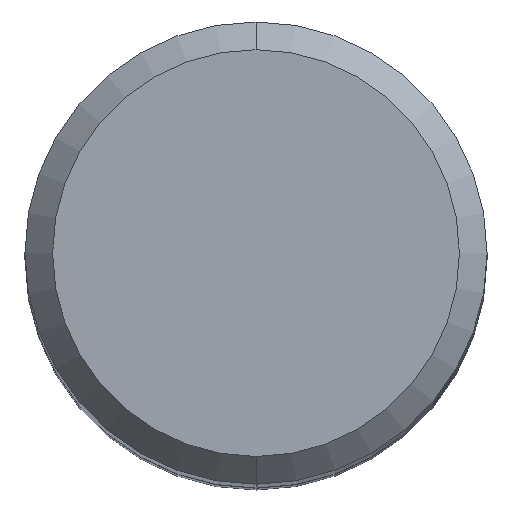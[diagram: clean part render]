
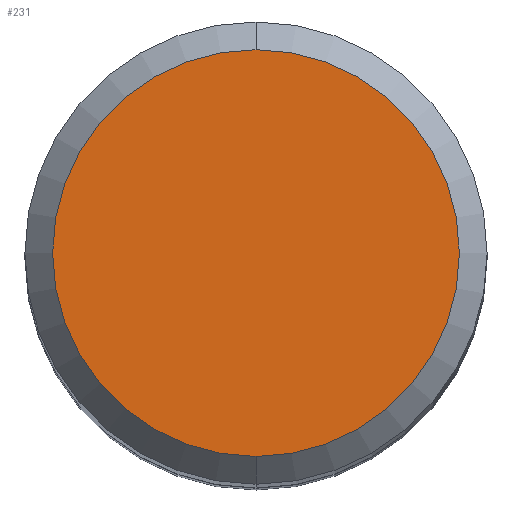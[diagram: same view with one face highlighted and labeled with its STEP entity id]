
A CAD part, top view. The second image highlights one B-rep face of the part: STEP entity #231.
In plain terms, the highlighted free-form (B-spline) face has degree [1, 1] with [2, 2] control points.
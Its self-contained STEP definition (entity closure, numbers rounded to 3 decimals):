
#38=CARTESIAN_POINT('',(0.,0.,0.));
#39=DIRECTION('',(0.,0.,1.));
#40=DIRECTION('',(0.,1.,0.));
#41=AXIS2_PLACEMENT_3D('',#38,#39,#40);
#43=CARTESIAN_POINT('',(0.,0.,0.));
#44=DIRECTION('',(0.,0.,-1.));
#45=DIRECTION('',(0.,1.,0.));
#46=AXIS2_PLACEMENT_3D('',#43,#44,#45);
#138=CARTESIAN_POINT('',(0.,4.4,0.));
#139=VERTEX_POINT('',#138);
#140=CARTESIAN_POINT('',(0.,-4.4,0.));
#141=VERTEX_POINT('',#140);
#222=CARTESIAN_POINT('',(4.576,4.576,0.));
#223=CARTESIAN_POINT('',(-4.576,4.576,0.));
#224=CARTESIAN_POINT('',(4.576,-4.576,0.));
#225=CARTESIAN_POINT('',(-4.576,-4.576,0.));
#226=B_SPLINE_SURFACE_WITH_KNOTS('',1,1,((#222,#223),(#224,#225)),.UNSPECIFIED.,
.F.,.F.,.F.,(2,2),(2,2),(-4.576,4.576),(-4.576,4.576),.UNSPECIFIED.);
#227=ORIENTED_EDGE('',*,*,#207,.F.);
#228=ORIENTED_EDGE('',*,*,#175,.T.);
#229=EDGE_LOOP('',(#227,#228));
#230=FACE_OUTER_BOUND('',#229,.F.);
#42=CIRCLE('',#41,4.4);
#47=CIRCLE('',#46,4.4);
#175=EDGE_CURVE('',#139,#141,#47,.T.);
#207=EDGE_CURVE('',#139,#141,#42,.T.);
#231=ADVANCED_FACE('',(#230),#226,.F.);
